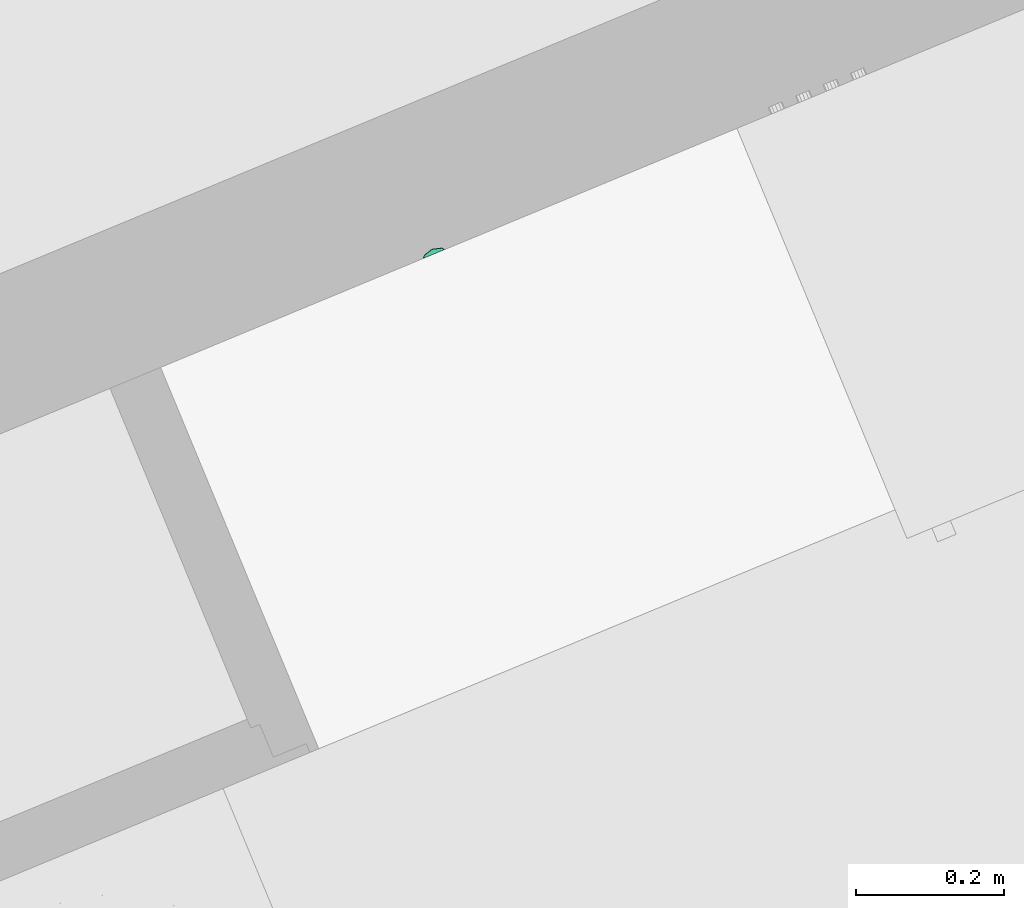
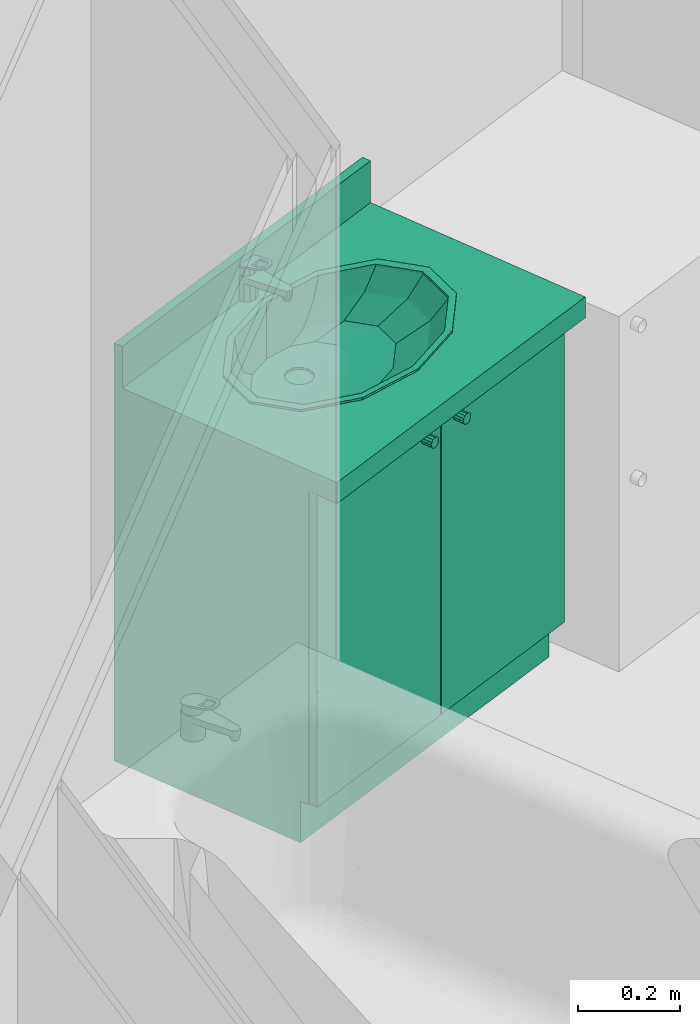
# One storey, part 70 of 90: 1 flow terminal.
"""IFC2X3 building model written with IfcOpenShell, lengths in metres."""

from ifc_helpers import new_model, entity, si_unit, converted_unit, derived_unit, money_unit, direction, frame, origin_with_axes, place, context, subcontext, project, spatial, open_shell, faceted_brep, surface_model, source, transform, mapped, type_object, element, save


model = new_model("IFC2X3")

# Units and contexts
model_context = context("Model", 3, precision=1e-05, world=origin_with_axes(), true_north=direction((0.0, 1.0)))
body_context = subcontext(model_context, "Body", "Model", "MODEL_VIEW")
ifc_project = project(units=[si_unit("LENGTHUNIT", "METRE"), si_unit("AREAUNIT", "SQUARE_METRE"), si_unit("VOLUMEUNIT", "CUBIC_METRE"), converted_unit("PLANEANGLEUNIT", "DEGREE", entity("IfcPlaneAngleMeasure", 0.0174532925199), si_unit("PLANEANGLEUNIT", "RADIAN"), dimensions=[0, 0, 0, 0, 0, 0, 0]), si_unit("SOLIDANGLEUNIT", "STERADIAN"), money_unit("EUR"), converted_unit("TIMEUNIT", "Year", entity("IfcTimeMeasure", 31556926.0), si_unit("TIMEUNIT", "SECOND"), dimensions=[0, 0, 1, 0, 0, 0, 0]), si_unit("MASSUNIT", "GRAM", prefix="KILO"), si_unit("THERMODYNAMICTEMPERATUREUNIT", "DEGREE_CELSIUS"), si_unit("LUMINOUSINTENSITYUNIT", "LUMEN"), si_unit("ENERGYUNIT", "JOULE", prefix="MEGA"), derived_unit("THERMALCONDUCTANCEUNIT", [(si_unit("POWERUNIT", "WATT"), 1), (si_unit("LENGTHUNIT", "METRE"), -1), (si_unit("THERMODYNAMICTEMPERATUREUNIT", "KELVIN"), -1)]), derived_unit("SPECIFICHEATCAPACITYUNIT", [(si_unit("ENERGYUNIT", "JOULE"), 1), (si_unit("MASSUNIT", "GRAM", prefix="KILO"), -1), (si_unit("THERMODYNAMICTEMPERATUREUNIT", "KELVIN"), -1)]), derived_unit("MASSDENSITYUNIT", [(si_unit("MASSUNIT", "GRAM", prefix="KILO"), 1), (si_unit("VOLUMEUNIT", "CUBIC_METRE"), -1)])], contexts=[model_context])

# Site, building, storey
site_placement = place(None, origin_with_axes())
site = spatial("IfcSite", under=ifc_project, at=site_placement, Name="Site", CompositionType="ELEMENT")
building_placement = place(site_placement, origin_with_axes())
building = spatial("IfcBuilding", under=site, at=building_placement, Name="Bâtiment", CompositionType="ELEMENT")
storey_placement = place(building_placement, frame((0.0, 0.0, 2.72), z_axis=(0.0, 0.0, 1.0), x_axis=(1.0, 0.0, 0.0)))
storey = spatial("IfcBuildingStorey", under=building, at=storey_placement, Name="R+1", CompositionType="ELEMENT", Elevation=2.72)

# Flow terminal
sanitary_terminal_type = type_object("IfcSanitaryTerminalType", Name="Lavabo sur meuble 23", PredefinedType="NOTDEFINED")
shared_shape = source(origin_with_axes(), body_context, "Body", "SurfaceModel", [
    faceted_brep([(0.0, 0.09, 0.0), (0.8, 0.09, 0.0), (0.8, 0.09, 0.1), (0.0, 0.09, 0.1), (0.0, 0.550000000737, 0.0), (0.8, 0.550000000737, 0.0), (0.8, 0.550000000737, 0.1), (0.0, 0.550000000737, 0.1)], [[[0, 1, 2, 3]], [[0, 4, 5, 1]], [[1, 5, 6, 2]], [[3, 2, 6, 7]], [[4, 0, 3, 7]], [[5, 4, 7, 6]]]),
    faceted_brep([(0.0, 0.07, 0.1), (0.02, 0.07, 0.1), (0.02, 0.07, 0.12), (0.0, 0.07, 0.12), (0.0, 0.550000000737, 0.1), (0.02, 0.550000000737, 0.1), (0.78, 0.550000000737, 0.1), (0.8, 0.550000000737, 0.1), (0.8, 0.07, 0.1), (0.78, 0.07, 0.1), (0.78, 0.07, 0.12), (0.8, 0.07, 0.12), (0.8, 0.550000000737, 0.12), (0.78, 0.550000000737, 0.12), (0.02, 0.550000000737, 0.12), (0.0, 0.550000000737, 0.12)], [[[0, 1, 2, 3]], [[0, 4, 5, 6, 7, 8, 9, 1]], [[1, 9, 10, 2]], [[3, 2, 10, 11, 12, 13, 14, 15]], [[4, 0, 3, 15]], [[5, 4, 15, 14]], [[6, 5, 14, 13]], [[7, 6, 13, 12]], [[8, 7, 12, 11]], [[9, 8, 11, 10]]]),
    faceted_brep([(0.0, 0.07, 0.12), (0.02, 0.07, 0.12), (0.02, 0.07, 0.85), (0.0, 0.07, 0.85), (0.0, 0.550000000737, 0.12), (0.8, 0.550000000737, 0.12), (0.8, 0.07, 0.12), (0.78, 0.07, 0.12), (0.78, 0.530000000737, 0.12), (0.02, 0.530000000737, 0.12), (0.02, 0.530000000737, 0.85), (0.78, 0.530000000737, 0.85), (0.78, 0.07, 0.85), (0.8, 0.07, 0.85), (0.8, 0.550000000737, 0.85), (0.0, 0.550000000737, 0.85)], [[[0, 1, 2, 3]], [[0, 4, 5, 6, 7, 8, 9, 1]], [[1, 9, 10, 2]], [[3, 2, 10, 11, 12, 13, 14, 15]], [[4, 0, 3, 15]], [[5, 4, 15, 14]], [[6, 5, 14, 13]], [[7, 6, 13, 12]], [[8, 7, 12, 11]], [[9, 8, 11, 10]]]),
    faceted_brep([(0.78, 0.07, 0.323333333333), (0.78, 0.530000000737, 0.323333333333), (0.78, 0.530000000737, 0.343333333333), (0.78, 0.07, 0.343333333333), (0.02, 0.07, 0.323333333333), (0.02, 0.530000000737, 0.323333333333), (0.02, 0.530000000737, 0.343333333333), (0.02, 0.07, 0.343333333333)], [[[0, 1, 2, 3]], [[0, 4, 5, 1]], [[1, 5, 6, 2]], [[3, 2, 6, 7]], [[4, 0, 3, 7]], [[5, 4, 7, 6]]]),
    faceted_brep([(0.78, 0.07, 0.566666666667), (0.78, 0.530000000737, 0.566666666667), (0.78, 0.530000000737, 0.586666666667), (0.78, 0.07, 0.586666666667), (0.02, 0.07, 0.566666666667), (0.02, 0.530000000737, 0.566666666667), (0.02, 0.530000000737, 0.586666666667), (0.02, 0.07, 0.586666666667)], [[[0, 1, 2, 3]], [[0, 4, 5, 1]], [[1, 5, 6, 2]], [[3, 2, 6, 7]], [[4, 0, 3, 7]], [[5, 4, 7, 6]]]),
    faceted_brep([(0.0, 0.550000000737, 0.85), (0.8, 0.550000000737, 0.85), (0.8, 0.0, 0.85), (0.0, 0.0, 0.85), (0.535, 0.144115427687, 0.85), (0.633826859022, 0.210000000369, 0.85), (0.67, 0.300000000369, 0.85), (0.633826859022, 0.390000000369, 0.85), (0.535, 0.45588457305, 0.85), (0.4, 0.480000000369, 0.85), (0.265, 0.45588457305, 0.85), (0.166173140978, 0.390000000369, 0.85), (0.13, 0.300000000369, 0.85), (0.166173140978, 0.210000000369, 0.85), (0.265, 0.144115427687, 0.85), (0.4, 0.120000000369, 0.85), (0.0, 0.550000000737, 0.9), (0.8, 0.550000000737, 0.9), (0.8, 0.0, 0.9), (0.0, 0.0, 0.9), (0.535, 0.144115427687, 0.9), (0.633826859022, 0.210000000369, 0.9), (0.67, 0.300000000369, 0.9), (0.633826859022, 0.390000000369, 0.9), (0.535, 0.45588457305, 0.9), (0.4, 0.480000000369, 0.9), (0.265, 0.45588457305, 0.9), (0.166173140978, 0.390000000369, 0.9), (0.13, 0.300000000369, 0.9), (0.166173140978, 0.210000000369, 0.9), (0.265, 0.144115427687, 0.9), (0.4, 0.120000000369, 0.9)], [[[0, 1, 2, 3], [4, 5, 6, 7, 8, 9, 10, 11, 12, 13, 14, 15]], [[0, 16, 17, 1]], [[1, 17, 18, 2]], [[2, 18, 19, 3]], [[3, 19, 16, 0]], [[20, 21, 5, 4]], [[21, 22, 6, 5]], [[22, 23, 7, 6]], [[23, 24, 8, 7]], [[24, 25, 9, 8]], [[25, 26, 10, 9]], [[26, 27, 11, 10]], [[27, 28, 12, 11]], [[28, 29, 13, 12]], [[29, 30, 14, 13]], [[30, 31, 15, 14]], [[31, 20, 4, 15]], [[18, 17, 16, 19], [24, 23, 22, 21, 20, 31, 30, 29, 28, 27, 26, 25]]]),
    faceted_brep([(0.0, 0.530000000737, 0.9), (0.8, 0.530000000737, 0.9), (0.8, 0.530000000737, 1.0), (0.0, 0.530000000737, 1.0), (0.0, 0.550000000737, 0.9), (0.8, 0.550000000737, 0.9), (0.8, 0.550000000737, 1.0), (0.0, 0.550000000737, 1.0)], [[[0, 1, 2, 3]], [[0, 4, 5, 1]], [[1, 5, 6, 2]], [[3, 2, 6, 7]], [[4, 0, 3, 7]], [[5, 4, 7, 6]]]),
    faceted_brep([(0.689, 0.300000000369, 0.905), (0.689, 0.300000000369, 0.9), (0.650281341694, 0.396691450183, 0.9), (0.650281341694, 0.396691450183, 0.905), (0.650281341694, 0.203308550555, 0.905), (0.650281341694, 0.203308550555, 0.9), (0.5445, 0.132525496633, 0.9), (0.4, 0.10661710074, 0.9), (0.2555, 0.132525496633, 0.9), (0.149718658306, 0.203308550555, 0.9), (0.111, 0.300000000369, 0.9), (0.149718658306, 0.396691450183, 0.9), (0.2555, 0.467474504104, 0.9), (0.4, 0.493382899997, 0.9), (0.5445, 0.467474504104, 0.9), (0.669, 0.300000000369, 0.9), (0.632960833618, 0.390000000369, 0.9), (0.5345, 0.45588457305, 0.9), (0.4, 0.480000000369, 0.9), (0.2655, 0.45588457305, 0.9), (0.167039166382, 0.390000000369, 0.9), (0.131, 0.300000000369, 0.9), (0.167039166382, 0.210000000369, 0.9), (0.2655, 0.144115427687, 0.9), (0.4, 0.120000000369, 0.9), (0.5345, 0.144115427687, 0.9), (0.632960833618, 0.210000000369, 0.9), (0.5445, 0.467474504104, 0.905), (0.4, 0.493382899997, 0.905), (0.2555, 0.467474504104, 0.905), (0.149718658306, 0.396691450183, 0.905), (0.111, 0.300000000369, 0.905), (0.149718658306, 0.203308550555, 0.905), (0.2555, 0.132525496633, 0.905), (0.4, 0.10661710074, 0.905), (0.5445, 0.132525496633, 0.905), (0.669, 0.300000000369, 0.905), (0.632960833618, 0.210000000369, 0.905), (0.5345, 0.144115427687, 0.905), (0.4, 0.120000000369, 0.905), (0.2655, 0.144115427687, 0.905), (0.167039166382, 0.210000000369, 0.905), (0.131, 0.300000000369, 0.905), (0.167039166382, 0.390000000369, 0.905), (0.2655, 0.45588457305, 0.905), (0.4, 0.480000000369, 0.905), (0.5345, 0.45588457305, 0.905), (0.632960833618, 0.390000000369, 0.905)], [[[0, 1, 2, 3]], [[4, 5, 1, 0]], [[1, 5, 6, 7, 8, 9, 10, 11, 12, 13, 14, 2], [15, 16, 17, 18, 19, 20, 21, 22, 23, 24, 25, 26]], [[3, 2, 14, 27]], [[0, 3, 27, 28, 29, 30, 31, 32, 33, 34, 35, 4], [36, 37, 38, 39, 40, 41, 42, 43, 44, 45, 46, 47]], [[35, 6, 5, 4]], [[34, 7, 6, 35]], [[33, 8, 7, 34]], [[32, 9, 8, 33]], [[31, 10, 9, 32]], [[30, 11, 10, 31]], [[29, 12, 11, 30]], [[28, 13, 12, 29]], [[27, 14, 13, 28]], [[47, 16, 15, 36]], [[46, 17, 16, 47]], [[45, 18, 17, 46]], [[44, 19, 18, 45]], [[43, 20, 19, 44]], [[42, 21, 20, 43]], [[41, 22, 21, 42]], [[40, 23, 22, 41]], [[39, 24, 23, 40]], [[38, 25, 24, 39]], [[37, 26, 25, 38]], [[36, 15, 26, 37]]]),
    surface_model("IfcShellBasedSurfaceModel", [(0.4, 0.480000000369, 0.9), (0.4, 0.480000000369, 0.848), (0.52105, 0.458296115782, 0.848), (0.5345, 0.45588457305, 0.9), (0.2655, 0.45588457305, 0.9), (0.27895, 0.458296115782, 0.848), (0.609664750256, 0.399000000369, 0.848), (0.632960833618, 0.390000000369, 0.9), (0.167039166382, 0.390000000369, 0.9), (0.190335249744, 0.399000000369, 0.848), (0.6421, 0.318000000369, 0.848), (0.669, 0.300000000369, 0.9), (0.131, 0.300000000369, 0.9), (0.1579, 0.318000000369, 0.848), (0.609664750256, 0.237000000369, 0.848), (0.632960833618, 0.210000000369, 0.9), (0.167039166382, 0.210000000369, 0.9), (0.190335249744, 0.237000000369, 0.848), (0.52105, 0.177703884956, 0.848), (0.5345, 0.144115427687, 0.9), (0.2655, 0.144115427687, 0.9), (0.27895, 0.177703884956, 0.848), (0.4, 0.156000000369, 0.848), (0.4, 0.120000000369, 0.9)], [open_shell([[[0, 1, 2, 3]], [[4, 5, 1, 0]], [[3, 2, 6, 7]], [[8, 9, 5, 4]], [[7, 6, 10, 11]], [[12, 13, 9, 8]], [[11, 10, 14, 15]], [[16, 17, 13, 12]], [[15, 14, 18, 19]], [[20, 21, 17, 16]], [[19, 18, 22, 23]], [[23, 22, 21, 20]]])]),
    surface_model("IfcShellBasedSurfaceModel", [(0.4, 0.480000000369, 0.848), (0.4, 0.480000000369, 0.796), (0.4956295, 0.462853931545, 0.796), (0.52105, 0.458296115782, 0.848), (0.27895, 0.458296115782, 0.848), (0.3043705, 0.462853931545, 0.796), (0.565635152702, 0.416010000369, 0.796), (0.609664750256, 0.399000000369, 0.848), (0.190335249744, 0.399000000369, 0.848), (0.234364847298, 0.416010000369, 0.796), (0.591259, 0.352020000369, 0.796), (0.6421, 0.318000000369, 0.848), (0.1579, 0.318000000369, 0.848), (0.208741, 0.352020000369, 0.796), (0.565635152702, 0.288030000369, 0.796), (0.609664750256, 0.237000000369, 0.848), (0.190335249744, 0.237000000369, 0.848), (0.234364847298, 0.288030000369, 0.796), (0.4956295, 0.241186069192, 0.796), (0.52105, 0.177703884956, 0.848), (0.27895, 0.177703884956, 0.848), (0.3043705, 0.241186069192, 0.796), (0.4, 0.224040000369, 0.796), (0.4, 0.156000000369, 0.848)], [open_shell([[[0, 1, 2, 3]], [[4, 5, 1, 0]], [[3, 2, 6, 7]], [[8, 9, 5, 4]], [[7, 6, 10, 11]], [[12, 13, 9, 8]], [[11, 10, 14, 15]], [[16, 17, 13, 12]], [[15, 14, 18, 19]], [[20, 21, 17, 16]], [[19, 18, 22, 23]], [[23, 22, 21, 20]]])]),
    surface_model("IfcShellBasedSurfaceModel", [(0.4, 0.480000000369, 0.796), (0.4, 0.480000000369, 0.77), (0.460246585, 0.46919797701, 0.77), (0.4956295, 0.462853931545, 0.796), (0.3043705, 0.462853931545, 0.796), (0.339753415, 0.46919797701, 0.77), (0.504350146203, 0.439686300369, 0.77), (0.565635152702, 0.416010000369, 0.796), (0.234364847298, 0.416010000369, 0.796), (0.295649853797, 0.439686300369, 0.77), (0.52049317, 0.399372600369, 0.77), (0.591259, 0.352020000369, 0.796), (0.208741, 0.352020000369, 0.796), (0.27950683, 0.399372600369, 0.77), (0.504350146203, 0.359058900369, 0.77), (0.565635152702, 0.288030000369, 0.796), (0.234364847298, 0.288030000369, 0.796), (0.295649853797, 0.359058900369, 0.77), (0.460246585, 0.329547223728, 0.77), (0.4956295, 0.241186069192, 0.796), (0.3043705, 0.241186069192, 0.796), (0.339753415, 0.329547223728, 0.77), (0.4, 0.318745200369, 0.77), (0.4, 0.224040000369, 0.796)], [open_shell([[[0, 1, 2, 3]], [[4, 5, 1, 0]], [[3, 2, 6, 7]], [[8, 9, 5, 4]], [[7, 6, 10, 11]], [[12, 13, 9, 8]], [[11, 10, 14, 15]], [[16, 17, 13, 12]], [[15, 14, 18, 19]], [[20, 21, 17, 16]], [[19, 18, 22, 23]], [[23, 22, 21, 20]]])]),
    surface_model("IfcShellBasedSurfaceModel", [(0.4, 0.480000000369, 0.77), (0.415, 0.425353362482, 0.763), (0.460246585, 0.46919797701, 0.77), (0.4, 0.429372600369, 0.763), (0.425980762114, 0.414372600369, 0.763), (0.339753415, 0.46919797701, 0.77), (0.504350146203, 0.439686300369, 0.77), (0.385, 0.425353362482, 0.763), (0.43, 0.399372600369, 0.763), (0.295649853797, 0.439686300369, 0.77), (0.52049317, 0.399372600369, 0.77), (0.374019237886, 0.414372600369, 0.763), (0.425980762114, 0.384372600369, 0.763), (0.27950683, 0.399372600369, 0.77), (0.504350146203, 0.359058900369, 0.77), (0.37, 0.399372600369, 0.763), (0.415, 0.373391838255, 0.763), (0.295649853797, 0.359058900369, 0.77), (0.460246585, 0.329547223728, 0.77), (0.374019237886, 0.384372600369, 0.763), (0.4, 0.369372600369, 0.763), (0.339753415, 0.329547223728, 0.77), (0.4, 0.318745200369, 0.77), (0.385, 0.373391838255, 0.763)], [open_shell([[[0, 1, 2]], [[0, 3, 1]], [[2, 1, 4]], [[5, 3, 0]], [[2, 4, 6]], [[5, 7, 3]], [[6, 4, 8]], [[9, 7, 5]], [[6, 8, 10]], [[9, 11, 7]], [[10, 8, 12]], [[13, 11, 9]], [[10, 12, 14]], [[13, 15, 11]], [[14, 12, 16]], [[17, 15, 13]], [[14, 16, 18]], [[17, 19, 15]], [[18, 16, 20]], [[21, 19, 17]], [[18, 20, 22]], [[21, 23, 19]], [[22, 20, 23]], [[22, 23, 21]]])]),
    surface_model("IfcShellBasedSurfaceModel", [(0.43, 0.399372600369, 0.763), (0.43, 0.399372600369, 0.758), (0.425980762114, 0.414372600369, 0.758), (0.425980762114, 0.414372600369, 0.763), (0.425980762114, 0.384372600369, 0.763), (0.425980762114, 0.384372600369, 0.758), (0.415, 0.373391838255, 0.758), (0.4, 0.369372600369, 0.758), (0.385, 0.373391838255, 0.758), (0.374019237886, 0.384372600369, 0.758), (0.37, 0.399372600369, 0.758), (0.374019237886, 0.414372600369, 0.758), (0.385, 0.425353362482, 0.758), (0.4, 0.429372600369, 0.758), (0.415, 0.425353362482, 0.758), (0.415, 0.425353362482, 0.763), (0.415, 0.373391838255, 0.763), (0.4, 0.369372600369, 0.763), (0.385, 0.373391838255, 0.763), (0.374019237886, 0.384372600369, 0.763), (0.37, 0.399372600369, 0.763), (0.374019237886, 0.414372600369, 0.763), (0.385, 0.425353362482, 0.763), (0.4, 0.429372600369, 0.763)], [open_shell([[[0, 1, 2, 3]], [[4, 5, 1, 0]], [[1, 5, 6, 7, 8, 9, 10, 11, 12, 13, 14, 2]], [[3, 2, 14, 15]], [[16, 6, 5, 4]], [[17, 7, 6, 16]], [[18, 8, 7, 17]], [[19, 9, 8, 18]], [[20, 10, 9, 19]], [[21, 11, 10, 20]], [[22, 12, 11, 21]], [[23, 13, 12, 22]], [[15, 14, 13, 23]]])]),
    faceted_brep([(0.4125, 0.554150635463, 0.9), (0.4, 0.557500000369, 0.9), (0.4, 0.553701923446, 0.975961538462), (0.410587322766, 0.550837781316, 0.976507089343), (0.421650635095, 0.545000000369, 0.9), (0.425, 0.532500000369, 0.9), (0.421650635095, 0.520000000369, 0.9), (0.4125, 0.510849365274, 0.9), (0.4, 0.507500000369, 0.9), (0.3875, 0.510849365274, 0.9), (0.378349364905, 0.520000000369, 0.9), (0.375, 0.532500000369, 0.9), (0.378349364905, 0.545000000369, 0.9), (0.3875, 0.554150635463, 0.9), (0.389412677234, 0.550837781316, 0.976507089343), (0.381726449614, 0.543050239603, 0.977990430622), (0.379, 0.532500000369, 0.98), (0.381899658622, 0.522049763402, 0.981990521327), (0.389585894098, 0.514462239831, 0.983435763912), (0.4, 0.511698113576, 0.983962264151), (0.410414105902, 0.514462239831, 0.983435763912), (0.418100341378, 0.522049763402, 0.981990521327), (0.421, 0.532500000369, 0.98), (0.418273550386, 0.543050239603, 0.977990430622)], [[[0, 1, 2, 3]], [[0, 4, 5, 6, 7, 8, 9, 10, 11, 12, 13, 1]], [[1, 13, 14, 2]], [[3, 2, 14, 15, 16, 17, 18, 19, 20, 21, 22, 23]], [[4, 0, 3, 23]], [[5, 4, 23, 22]], [[6, 5, 22, 21]], [[7, 6, 21, 20]], [[8, 7, 20, 19]], [[9, 8, 19, 18]], [[10, 9, 18, 17]], [[11, 10, 17, 16]], [[12, 11, 16, 15]], [[13, 12, 15, 14]]]),
    faceted_brep([(0.409, 0.429500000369, 0.935), (0.407794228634, 0.434000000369, 0.935), (0.407794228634, 0.434000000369, 0.945), (0.409, 0.429500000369, 0.945), (0.407794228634, 0.425000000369, 0.935), (0.4045, 0.421705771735, 0.935), (0.4, 0.420500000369, 0.935), (0.3955, 0.421705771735, 0.935), (0.392205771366, 0.425000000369, 0.935), (0.391, 0.429500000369, 0.935), (0.392205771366, 0.434000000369, 0.935), (0.3955, 0.437294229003, 0.935), (0.4, 0.438500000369, 0.935), (0.4045, 0.437294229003, 0.935), (0.4045, 0.437294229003, 0.945), (0.4, 0.438500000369, 0.945), (0.3955, 0.437294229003, 0.945), (0.392205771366, 0.434000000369, 0.945), (0.391, 0.429500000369, 0.945), (0.392205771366, 0.425000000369, 0.945), (0.3955, 0.421705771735, 0.945), (0.4, 0.420500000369, 0.945), (0.4045, 0.421705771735, 0.945), (0.407794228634, 0.425000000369, 0.945)], [[[0, 1, 2, 3]], [[0, 4, 5, 6, 7, 8, 9, 10, 11, 12, 13, 1]], [[1, 13, 14, 2]], [[3, 2, 14, 15, 16, 17, 18, 19, 20, 21, 22, 23]], [[4, 0, 3, 23]], [[5, 4, 23, 22]], [[6, 5, 22, 21]], [[7, 6, 21, 20]], [[8, 7, 20, 19]], [[9, 8, 19, 18]], [[10, 9, 18, 17]], [[11, 10, 17, 16]], [[12, 11, 16, 15]], [[13, 12, 15, 14]]]),
    faceted_brep([(0.387128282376, 0.552756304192, 0.96), (0.378272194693, 0.542693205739, 0.96), (0.3761946, 0.529450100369, 0.96), (0.389088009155, 0.428111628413, 0.96), (0.390971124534, 0.42321680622, 0.96), (0.394906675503, 0.419750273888, 0.96), (0.400000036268, 0.418500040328, 0.96), (0.405093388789, 0.419750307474, 0.96), (0.409028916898, 0.423216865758, 0.96), (0.410912, 0.428111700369, 0.96), (0.423805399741, 0.529450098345, 0.96), (0.421727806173, 0.542693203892, 0.96), (0.412871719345, 0.552756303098, 0.96), (0.40000000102, 0.556499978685, 0.96), (0.411, 0.551552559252, 0.96), (0.419052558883, 0.543500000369, 0.96), (0.422, 0.532500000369, 0.96), (0.419052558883, 0.521500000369, 0.96), (0.411, 0.513447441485, 0.96), (0.4, 0.510500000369, 0.96), (0.389, 0.513447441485, 0.96), (0.380947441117, 0.521500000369, 0.96), (0.378, 0.532500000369, 0.96), (0.380947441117, 0.543500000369, 0.96), (0.389, 0.551552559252, 0.96), (0.4, 0.554500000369, 0.96), (0.378272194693, 0.542693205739, 0.945), (0.387128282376, 0.552756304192, 0.945), (0.3761946, 0.529450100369, 0.945), (0.389088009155, 0.428111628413, 0.945), (0.390971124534, 0.42321680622, 0.945), (0.394906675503, 0.419750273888, 0.945), (0.400000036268, 0.418500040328, 0.945), (0.405093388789, 0.419750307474, 0.945), (0.409028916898, 0.423216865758, 0.945), (0.410912, 0.428111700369, 0.945), (0.423805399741, 0.529450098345, 0.945), (0.421727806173, 0.542693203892, 0.945), (0.412871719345, 0.552756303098, 0.945), (0.40000000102, 0.556499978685, 0.945), (0.411375, 0.552202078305, 0.945), (0.419702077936, 0.543875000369, 0.945), (0.42275, 0.532500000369, 0.945), (0.419702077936, 0.521125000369, 0.945), (0.411375, 0.512797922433, 0.945), (0.4, 0.509750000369, 0.945), (0.388625, 0.512797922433, 0.945), (0.380297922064, 0.521125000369, 0.945), (0.37725, 0.532500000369, 0.945), (0.380297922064, 0.543875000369, 0.945), (0.388625, 0.552202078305, 0.945), (0.4, 0.555250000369, 0.945)], [[[0, 1, 2, 3, 4, 5, 6, 7, 8, 9, 10, 11, 12, 13], [14, 15, 16, 17, 18, 19, 20, 21, 22, 23, 24, 25]], [[26, 1, 0, 27]], [[28, 2, 1, 26]], [[29, 3, 2, 28]], [[30, 4, 3, 29]], [[31, 5, 4, 30]], [[32, 6, 5, 31]], [[33, 7, 6, 32]], [[34, 8, 7, 33]], [[35, 9, 8, 34]], [[36, 10, 9, 35]], [[37, 11, 10, 36]], [[38, 12, 11, 37]], [[39, 13, 12, 38]], [[27, 0, 13, 39]], [[40, 41, 15, 14]], [[41, 42, 16, 15]], [[42, 43, 17, 16]], [[43, 44, 18, 17]], [[44, 45, 19, 18]], [[20, 19, 45, 46]], [[21, 20, 46, 47]], [[22, 21, 47, 48]], [[23, 22, 48, 49]], [[24, 23, 49, 50]], [[50, 51, 25, 24]], [[51, 40, 14, 25]], [[32, 31, 30, 29, 28, 26, 27, 39, 38, 37, 36, 35, 34, 33], [44, 43, 42, 41, 40, 51, 50, 49, 48, 47, 46, 45]]]),
    faceted_brep([(0.423893, 0.530807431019, 0.980322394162), (0.421296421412, 0.543274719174, 0.977947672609), (0.421296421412, 0.544023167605, 0.981877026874), (0.423893, 0.53155587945, 0.984251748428), (0.420945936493, 0.490663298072, 0.987968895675), (0.417663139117, 0.480985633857, 0.989812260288), (0.410061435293, 0.474036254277, 0.991135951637), (0.399999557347, 0.471514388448, 0.991616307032), (0.389937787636, 0.474036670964, 0.991135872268), (0.382336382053, 0.480986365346, 0.989812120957), (0.379054, 0.490664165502, 0.987968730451), (0.376106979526, 0.530807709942, 0.980322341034), (0.378703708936, 0.543274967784, 0.977947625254), (0.38752831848, 0.55259119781, 0.976173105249), (0.400000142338, 0.556031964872, 0.975517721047), (0.41247192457, 0.552591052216, 0.976173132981), (0.414, 0.506959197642, 0.984864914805), (0.386, 0.506959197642, 0.984864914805), (0.386, 0.492143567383, 0.987686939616), (0.387875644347, 0.485267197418, 0.988996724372), (0.393, 0.480233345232, 0.989955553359), (0.4, 0.478390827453, 0.990306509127), (0.407, 0.480233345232, 0.989955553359), (0.412124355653, 0.485267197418, 0.988996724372), (0.414, 0.492143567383, 0.987686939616), (0.41247192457, 0.553339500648, 0.980102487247), (0.400000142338, 0.556780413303, 0.979447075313), (0.38752831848, 0.553339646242, 0.980102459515), (0.378703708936, 0.544023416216, 0.98187697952), (0.376106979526, 0.531556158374, 0.984251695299), (0.379054, 0.491412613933, 0.991898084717), (0.382336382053, 0.481734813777, 0.993741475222), (0.389937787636, 0.474785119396, 0.995065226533), (0.399999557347, 0.47226283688, 0.995545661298), (0.410061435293, 0.474784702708, 0.995065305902), (0.417663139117, 0.481734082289, 0.993741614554), (0.420945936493, 0.491411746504, 0.991898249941), (0.414, 0.507707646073, 0.988794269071), (0.414, 0.492892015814, 0.991616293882), (0.412124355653, 0.48601564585, 0.992926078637), (0.407, 0.480981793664, 0.993884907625), (0.4, 0.479139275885, 0.994235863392), (0.393, 0.480981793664, 0.993884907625), (0.387875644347, 0.48601564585, 0.992926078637), (0.386, 0.492892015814, 0.991616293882), (0.386, 0.507707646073, 0.988794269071)], [[[0, 1, 2, 3]], [[0, 4, 5, 6, 7, 8, 9, 10, 11, 12, 13, 14, 15, 1], [16, 17, 18, 19, 20, 21, 22, 23, 24]], [[1, 15, 25, 2]], [[3, 2, 25, 26, 27, 28, 29, 30, 31, 32, 33, 34, 35, 36], [37, 38, 39, 40, 41, 42, 43, 44, 45]], [[4, 0, 3, 36]], [[5, 4, 36, 35]], [[6, 5, 35, 34]], [[7, 6, 34, 33]], [[8, 7, 33, 32]], [[9, 8, 32, 31]], [[10, 9, 31, 30]], [[11, 10, 30, 29]], [[12, 11, 29, 28]], [[13, 12, 28, 27]], [[14, 13, 27, 26]], [[15, 14, 26, 25]], [[17, 16, 37, 45]], [[18, 17, 45, 44]], [[19, 18, 44, 43]], [[20, 19, 43, 42]], [[21, 20, 42, 41]], [[22, 21, 41, 40]], [[23, 22, 40, 39]], [[24, 23, 39, 38]], [[16, 24, 38, 37]]]),
    faceted_brep([(0.0015, 0.07, 0.1015), (0.3985, 0.07, 0.1015), (0.3985, 0.05, 0.1015), (0.0015, 0.05, 0.1015), (0.0015, 0.07, 0.8485), (0.3985, 0.07, 0.8485), (0.3985, 0.05, 0.8485), (0.0015, 0.05, 0.8485)], [[[0, 1, 2, 3]], [[0, 4, 5, 1]], [[1, 5, 6, 2]], [[3, 2, 6, 7]], [[4, 0, 3, 7]], [[5, 4, 7, 6]]]),
    faceted_brep([(0.358892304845, 0.05, 0.7855), (0.3545, 0.05, 0.781107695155), (0.3485, 0.05, 0.7795), (0.3425, 0.05, 0.781107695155), (0.338107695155, 0.05, 0.7855), (0.3365, 0.05, 0.7915), (0.338107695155, 0.05, 0.7975), (0.3425, 0.05, 0.801892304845), (0.3485, 0.05, 0.8035), (0.3545, 0.05, 0.801892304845), (0.358892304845, 0.05, 0.7975), (0.3605, 0.05, 0.7915), (0.358892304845, 0.025, 0.7855), (0.3545, 0.025, 0.781107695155), (0.3485, 0.025, 0.7795), (0.3425, 0.025, 0.781107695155), (0.338107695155, 0.025, 0.7855), (0.3365, 0.025, 0.7915), (0.338107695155, 0.025, 0.7975), (0.3425, 0.025, 0.801892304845), (0.3485, 0.025, 0.8035), (0.3545, 0.025, 0.801892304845), (0.358892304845, 0.025, 0.7975), (0.3605, 0.025, 0.7915)], [[[0, 1, 2, 3, 4, 5, 6, 7, 8, 9, 10, 11]], [[1, 0, 12, 13]], [[2, 1, 13, 14]], [[3, 2, 14, 15]], [[4, 3, 15, 16]], [[5, 4, 16, 17]], [[6, 5, 17, 18]], [[7, 6, 18, 19]], [[8, 7, 19, 20]], [[9, 8, 20, 21]], [[10, 9, 21, 22]], [[11, 10, 22, 23]], [[0, 11, 23, 12]], [[12, 23, 22, 21, 20, 19, 18, 17, 16, 15, 14, 13]]]),
    faceted_brep([(0.7985, 0.07, 0.1015), (0.7985, 0.05, 0.1015), (0.4015, 0.05, 0.1015), (0.4015, 0.07, 0.1015), (0.7985, 0.07, 0.8485), (0.7985, 0.05, 0.8485), (0.4015, 0.05, 0.8485), (0.4015, 0.07, 0.8485)], [[[0, 1, 2, 3]], [[4, 5, 1, 0]], [[1, 5, 6, 2]], [[3, 2, 6, 7]], [[0, 3, 7, 4]], [[7, 6, 5, 4]]]),
    faceted_brep([(0.441107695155, 0.05, 0.7855), (0.4395, 0.05, 0.7915), (0.441107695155, 0.05, 0.7975), (0.4455, 0.05, 0.801892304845), (0.4515, 0.05, 0.8035), (0.4575, 0.05, 0.801892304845), (0.461892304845, 0.05, 0.7975), (0.4635, 0.05, 0.7915), (0.461892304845, 0.05, 0.7855), (0.4575, 0.05, 0.781107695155), (0.4515, 0.05, 0.7795), (0.4455, 0.05, 0.781107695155), (0.441107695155, 0.025, 0.7855), (0.4395, 0.025, 0.7915), (0.441107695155, 0.025, 0.7975), (0.4455, 0.025, 0.801892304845), (0.4515, 0.025, 0.8035), (0.4575, 0.025, 0.801892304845), (0.461892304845, 0.025, 0.7975), (0.4635, 0.025, 0.7915), (0.461892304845, 0.025, 0.7855), (0.4575, 0.025, 0.781107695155), (0.4515, 0.025, 0.7795), (0.4455, 0.025, 0.781107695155)], [[[0, 1, 2, 3, 4, 5, 6, 7, 8, 9, 10, 11]], [[0, 12, 13, 1]], [[1, 13, 14, 2]], [[2, 14, 15, 3]], [[3, 15, 16, 4]], [[4, 16, 17, 5]], [[5, 17, 18, 6]], [[6, 18, 19, 7]], [[7, 19, 20, 8]], [[8, 20, 21, 9]], [[9, 21, 22, 10]], [[10, 22, 23, 11]], [[11, 23, 12, 0]], [[12, 23, 22, 21, 20, 19, 18, 17, 16, 15, 14, 13]]]),
])
flow_terminal_placement = place(storey_placement, frame((-21.282711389, -22.2917223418, 0.0), z_axis=(0.0, 0.0, 1.0), x_axis=(0.923701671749, 0.38311254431, 0.0)))
element("IfcFlowTerminal", 1, at=flow_terminal_placement, inside=storey, type_object=sanitary_terminal_type, Name="MOB-002", ObjectType="SANITARY_TERMINAL", context=body_context, shape_type="MappedRepresentation", body=[
    mapped(shared_shape, transform((0.0, 0.0, 0.0))),
])

save(model, "model.ifc")
